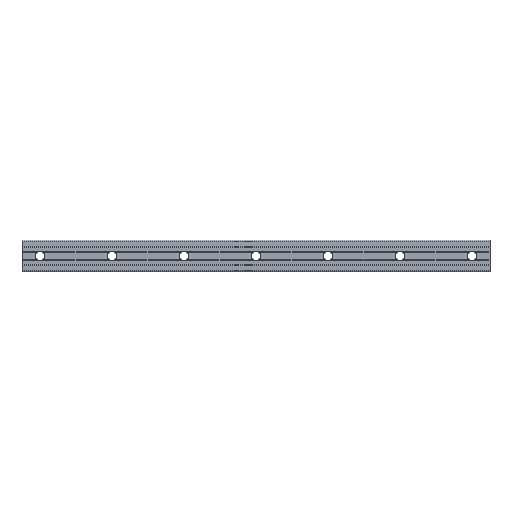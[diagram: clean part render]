
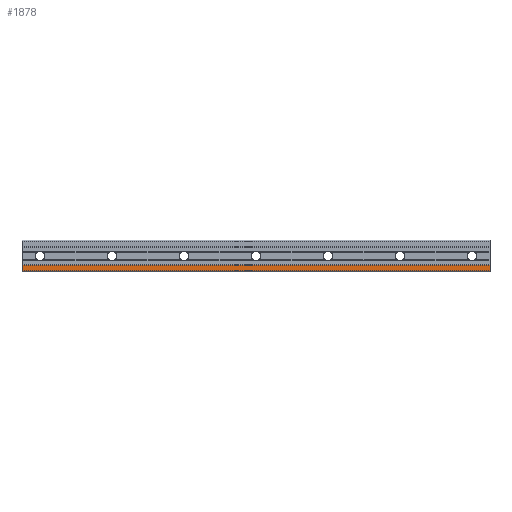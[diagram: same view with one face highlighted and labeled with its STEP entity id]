
A CAD part, front view. The second image highlights one B-rep face of the part: STEP entity #1878.
In plain terms, the highlighted planar face has unit normal (0, -1, 0).
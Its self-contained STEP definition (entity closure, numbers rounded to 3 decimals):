
#78=PLANE('',#2067);
#456=ORIENTED_EDGE('',*,*,#967,.T.);
#457=ORIENTED_EDGE('',*,*,#966,.F.);
#458=ORIENTED_EDGE('',*,*,#968,.F.);
#459=ORIENTED_EDGE('',*,*,#969,.T.);
#966=EDGE_CURVE('',#1198,#1197,#1336,.T.);
#967=EDGE_CURVE('',#1199,#1197,#1337,.T.);
#968=EDGE_CURVE('',#1200,#1198,#1338,.T.);
#969=EDGE_CURVE('',#1200,#1199,#1339,.T.);
#1197=VERTEX_POINT('',#3204);
#1198=VERTEX_POINT('',#3206);
#1199=VERTEX_POINT('',#3210);
#1200=VERTEX_POINT('',#3212);
#1336=LINE('',#3207,#1466);
#1337=LINE('',#3209,#1467);
#1338=LINE('',#3211,#1468);
#1339=LINE('',#3213,#1469);
#1466=VECTOR('',#2508,1000.);
#1467=VECTOR('',#2511,1000.);
#1468=VECTOR('',#2512,1000.);
#1469=VECTOR('',#2513,1000.);
#1575=EDGE_LOOP('',(#456,#457,#458,#459));
#1705=FACE_BOUND('',#1575,.T.);
#1878=ADVANCED_FACE('',(#1705),#78,.F.);
#2067=AXIS2_PLACEMENT_3D('',#3208,#2509,#2510);
#2508=DIRECTION('',(-1.,0.,0.));
#2509=DIRECTION('',(0.,1.,0.));
#2510=DIRECTION('',(0.,0.,1.));
#2511=DIRECTION('',(0.,0.,-1.));
#2512=DIRECTION('',(0.,0.,-1.));
#2513=DIRECTION('',(-1.,0.,0.));
#3204=CARTESIAN_POINT('',(-30.,0.,-24.5));
#3206=CARTESIAN_POINT('',(750.,0.,-24.5));
#3207=CARTESIAN_POINT('',(750.,0.,-24.5));
#3208=CARTESIAN_POINT('',(750.,0.,-15.5));
#3209=CARTESIAN_POINT('',(-30.,0.,-15.5));
#3210=CARTESIAN_POINT('',(-30.,0.,-15.5));
#3211=CARTESIAN_POINT('',(750.,0.,-15.5));
#3212=CARTESIAN_POINT('',(750.,0.,-15.5));
#3213=CARTESIAN_POINT('',(750.,0.,-15.5));
